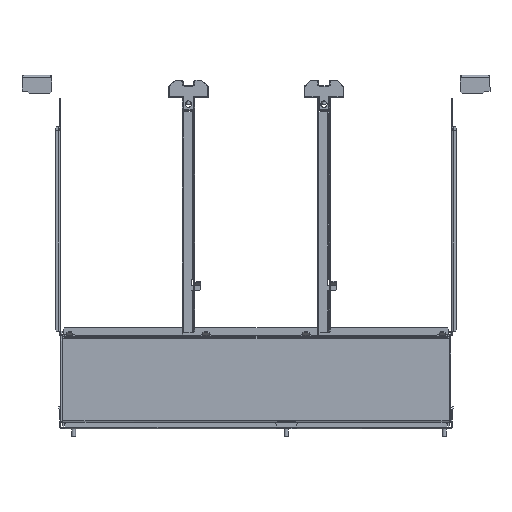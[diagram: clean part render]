
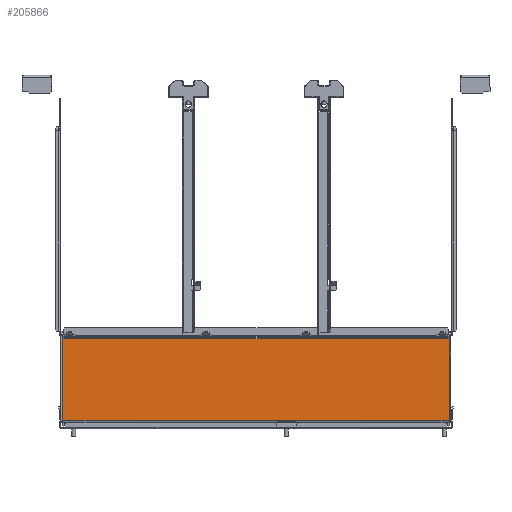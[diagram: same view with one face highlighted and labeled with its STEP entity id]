
A CAD part, front view. The second image highlights one B-rep face of the part: STEP entity #205866.
In plain terms, the highlighted planar face has unit normal (0, -1, 0).
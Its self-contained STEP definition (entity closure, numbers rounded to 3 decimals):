
#195196=CARTESIAN_POINT(' ',(-245.,-45.,0.6));
#195197=VERTEX_POINT(' ',#195196);
#198316=CARTESIAN_POINT(' ',(27.,-45.,0.6));
#198321=DIRECTION(' ',(-1.,0.,0.));
#198326=VECTOR(' ',#198321,1.);
#198331=LINE('',#198316,#198326);
#198336=CARTESIAN_POINT(' ',(27.,-45.,0.6));
#198337=VERTEX_POINT(' ',#198336);
#198341=EDGE_CURVE(' ',#198337,#195197,#198331,.T.);
#198461=CARTESIAN_POINT(' ',(50.,-45.,0.6));
#198462=VERTEX_POINT(' ',#198461);
#198516=CARTESIAN_POINT(' ',(245.,-45.,0.6));
#198517=VERTEX_POINT(' ',#198516);
#198531=CARTESIAN_POINT(' ',(245.,-45.,0.6));
#198536=DIRECTION(' ',(-1.,0.,0.));
#198541=VECTOR(' ',#198536,1.);
#198546=LINE('',#198531,#198541);
#198551=EDGE_CURVE(' ',#198517,#198462,#198546,.T.);
#199381=CARTESIAN_POINT(' ',(-245.,-45.,0.6));
#199386=DIRECTION(' ',(0.,0.,1.));
#199391=VECTOR(' ',#199386,1.);
#199396=LINE('',#199381,#199391);
#199401=CARTESIAN_POINT(' ',(-245.,-45.,104.4));
#199402=VERTEX_POINT(' ',#199401);
#199406=EDGE_CURVE(' ',#195197,#199402,#199396,.T.);
#205651=DIRECTION(' ',(-0.,-1.,0.));
#205656=CARTESIAN_POINT(' ',(-245.,-45.,0.6));
#205661=DIRECTION(' ',(1.,0.,-0.));
#205666=AXIS2_PLACEMENT_3D(' ',#205656,#205651,#205661);
#205671=PLANE('NONE',#205666);
#205676=CARTESIAN_POINT(' ',(27.,-45.,1.));
#205681=DIRECTION(' ',(0.,0.,-1.));
#205686=VECTOR(' ',#205681,1.);
#205691=LINE('',#205676,#205686);
#205696=CARTESIAN_POINT(' ',(27.,-45.,1.));
#205697=VERTEX_POINT(' ',#205696);
#205701=EDGE_CURVE(' ',#205697,#198337,#205691,.T.);
#205706=ORIENTED_EDGE(' ',*,*,#205701,.F.);
#205711=CARTESIAN_POINT(' ',(50.,-45.,1.));
#205716=DIRECTION(' ',(-1.,0.,0.));
#205721=VECTOR(' ',#205716,1.);
#205726=LINE('',#205711,#205721);
#205731=CARTESIAN_POINT(' ',(50.,-45.,1.));
#205732=VERTEX_POINT(' ',#205731);
#205736=EDGE_CURVE(' ',#205732,#205697,#205726,.T.);
#205741=ORIENTED_EDGE(' ',*,*,#205736,.F.);
#205746=CARTESIAN_POINT(' ',(50.,-45.,1.));
#205751=DIRECTION(' ',(0.,0.,-1.));
#205756=VECTOR(' ',#205751,1.);
#205761=LINE('',#205746,#205756);
#205766=EDGE_CURVE(' ',#205732,#198462,#205761,.T.);
#205771=ORIENTED_EDGE(' ',*,*,#205766,.T.);
#205776=ORIENTED_EDGE(' ',*,*,#198551,.F.);
#205781=CARTESIAN_POINT(' ',(245.,-45.,0.6));
#205786=DIRECTION(' ',(0.,0.,1.));
#205791=VECTOR(' ',#205786,1.);
#205796=LINE('',#205781,#205791);
#205801=CARTESIAN_POINT(' ',(245.,-45.,104.4));
#205802=VERTEX_POINT(' ',#205801);
#205806=EDGE_CURVE(' ',#198517,#205802,#205796,.T.);
#205811=ORIENTED_EDGE(' ',*,*,#205806,.T.);
#205816=CARTESIAN_POINT(' ',(245.,-45.,104.4));
#205821=DIRECTION(' ',(-1.,0.,0.));
#205826=VECTOR(' ',#205821,1.);
#205831=LINE('',#205816,#205826);
#205836=EDGE_CURVE(' ',#205802,#199402,#205831,.T.);
#205841=ORIENTED_EDGE(' ',*,*,#205836,.T.);
#205846=ORIENTED_EDGE(' ',*,*,#199406,.F.);
#205851=ORIENTED_EDGE(' ',*,*,#198341,.F.);
#205856=EDGE_LOOP(' ',(#205706,#205741,#205771,#205776,#205811,#205841,#205846,#205851));
#205861=FACE_OUTER_BOUND(' ',#205856,.T.);
#205866=ADVANCED_FACE('NONE',(#205861),#205671,.T.);
